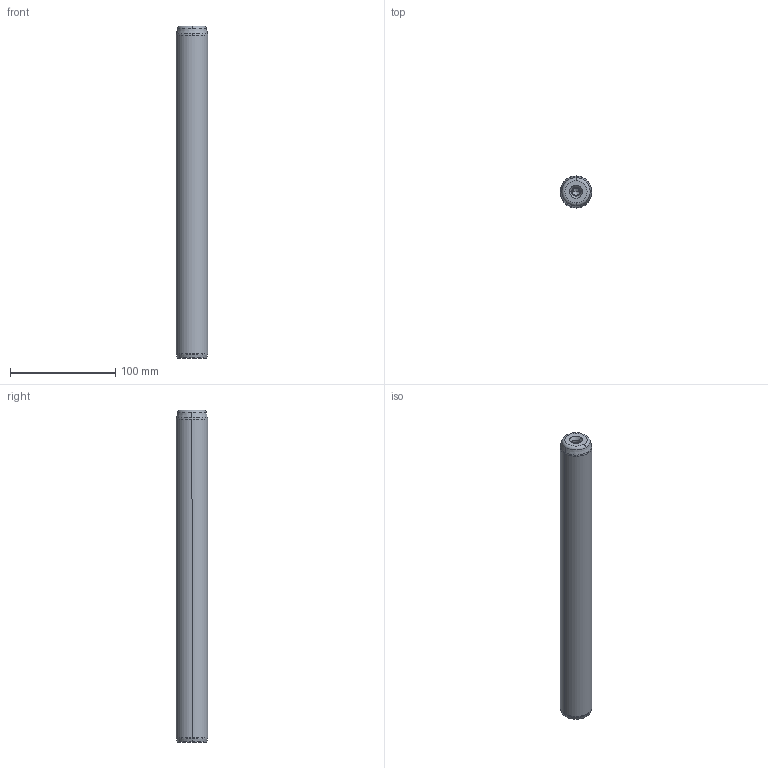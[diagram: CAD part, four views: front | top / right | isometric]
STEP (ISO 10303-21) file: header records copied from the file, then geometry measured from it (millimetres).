
FILE_DESCRIPTION((''),'2;1');
FILE_NAME('P10_030_315.stp','2008-12-23T15:01:13',(''),(''),'Mechanical Desktop 2009','Mechanical Desktop 2009',', , ');
FILE_SCHEMA(('CONFIG_CONTROL_DESIGN'));
Length unit declared in the file: millimetre
Products named in the file (5): Product; ProductAA; blmdl1; ProductA; blmdl1A
Assembly tree (2 placements, depth 3):
  Product
    ProductAA
      blmdl1
  ProductA
  blmdl1A
Bounding box: 30 x 30 x 315 mm (x, y, z)
Volume: 220506.6 mm3; surface area: 31270.7 mm2
Topology: 1 solids, 1 shells, 26 faces, 66 edges, 41 vertices
Faces by surface type: cone 10, torus 8, cylinder 6, plane 2
Entity records: 1012 total; most frequent: DIRECTION 170, CARTESIAN_POINT 134, ORIENTED_EDGE 128, AXIS2_PLACEMENT_3D 77, EDGE_CURVE 64, CIRCLE 48, VERTEX_POINT 41, EDGE_LOOP 27
